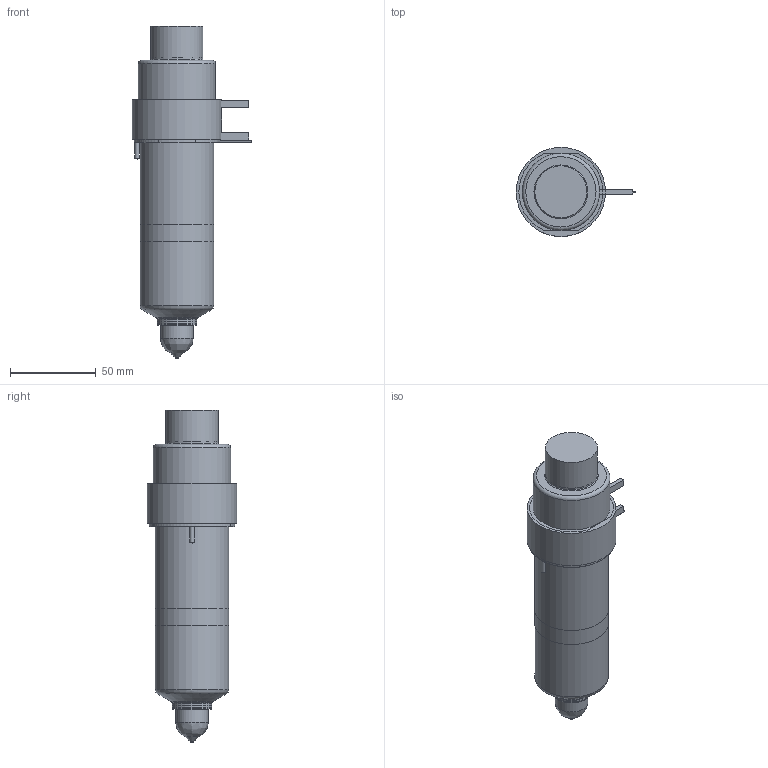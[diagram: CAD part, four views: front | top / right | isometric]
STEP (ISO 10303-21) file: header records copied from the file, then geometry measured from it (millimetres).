
FILE_DESCRIPTION(/* description */ (''),/* implementation_level */ '2;1');
FILE_NAME(/* name */ 'SXTT-SXIT27115-10_200C_b',/* time_stamp */ '2007-01-24T17:35:48+13:00',/* author */ (''),/* organization */ (''),/* preprocessor_version */ 'ST-DEVELOPER v9',/* originating_system */ 'UGS - NX 4.0',/* authorisation */ '');
FILE_SCHEMA (('CONFIG_CONTROL_DESIGN'));
Length unit declared in the file: millimetre
Products named in the file (1): SXTT-SXIT27115-10_200C_b
Bounding box: 69.6 x 52 x 193.53 mm (x, y, z)
Volume: 454711.9 mm3; surface area: 57417.1 mm2
Topology: 7 solids, 7 shells, 99 faces, 193 edges, 122 vertices
Faces by surface type: plane 43, cylinder 30, cone 13, torus 11, bspline 2
Full cylindrical faces by diameter (mm): 1 x3, 2 x1, 2.5 x2, 12 x2, 19 x1, 22.61 x1, 23.01 x2, 27.5 x1, 30 x1, 30.4 x1, 38.1 x2, 43 x2, 45 x1, 50 x1, 52 x1
Entity records: 2540 total; most frequent: CARTESIAN_POINT 591, DIRECTION 410, ORIENTED_EDGE 292, AXIS2_PLACEMENT_3D 180, EDGE_LOOP 154, EDGE_CURVE 146, VERTEX_POINT 117, ADVANCED_FACE 99
